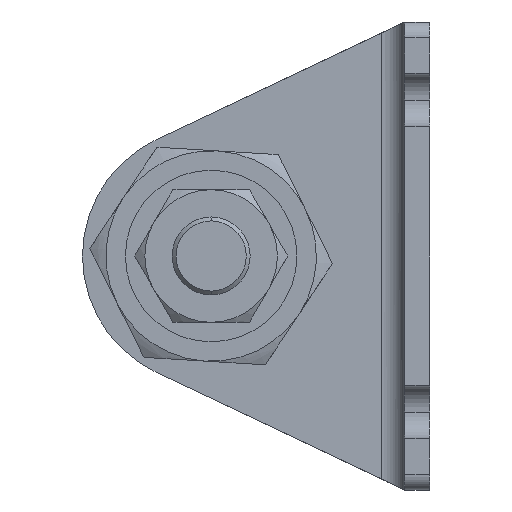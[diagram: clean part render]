
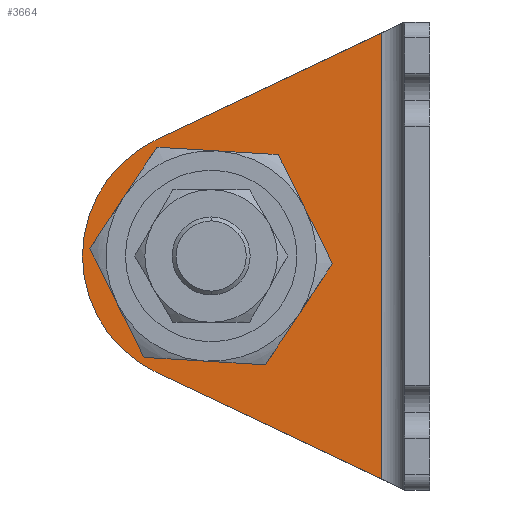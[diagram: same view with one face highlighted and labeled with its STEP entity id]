
A CAD part, left-side view. The second image highlights one B-rep face of the part: STEP entity #3664.
In plain terms, the highlighted planar face has unit normal (-1, 0, 0) as drawn and (1, 0, 0) by its records, which use the part's own axes.
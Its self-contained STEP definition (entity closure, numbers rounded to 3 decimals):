
#73 = VERTEX_POINT ( 'NONE', #3933 ) ;
#126 = CARTESIAN_POINT ( 'NONE',  ( 3.2, 26.408, -10.99 ) ) ;
#132 = EDGE_CURVE ( 'NONE', #2469, #1636, #3544, .T. ) ;
#167 = ORIENTED_EDGE ( 'NONE', *, *, #1230, .T. ) ;
#173 = CIRCLE ( 'NONE', #1496, 16.5 ) ;
#182 = VECTOR ( 'NONE', #1394, 1000. ) ;
#214 = VERTEX_POINT ( 'NONE', #3718 ) ;
#410 = DIRECTION ( 'NONE',  ( 0., 1., 0. ) ) ;
#538 = EDGE_LOOP ( 'NONE', ( #3268, #3435, #1150, #1519, #167 ) ) ;
#572 = EDGE_CURVE ( 'NONE', #73, #3520, #1639, .T. ) ;
#623 = DIRECTION ( 'NONE',  ( 0., 1., 0. ) ) ;
#677 = AXIS2_PLACEMENT_3D ( 'NONE', #1664, #2295, #410 ) ;
#680 = DIRECTION ( 'NONE',  ( 1., 0., 0. ) ) ;
#701 = EDGE_CURVE ( 'NONE', #2469, #1280, #1396, .T. ) ;
#726 = EDGE_CURVE ( 'NONE', #2188, #214, #1155, .T. ) ;
#800 = CARTESIAN_POINT ( 'NONE',  ( 3.2, 3.2, -60. ) ) ;
#868 = CARTESIAN_POINT ( 'NONE',  ( 3.2, 44.5, -30. ) ) ;
#947 = AXIS2_PLACEMENT_3D ( 'NONE', #965, #680, #3169 ) ;
#963 = DIRECTION ( 'NONE',  ( 1., 0., 0. ) ) ;
#964 = EDGE_LOOP ( 'NONE', ( #2824, #3378 ) ) ;
#965 = CARTESIAN_POINT ( 'NONE',  ( 3.2, 28., -30. ) ) ;
#977 = DIRECTION ( 'NONE',  ( 0., 1., 0. ) ) ;
#1066 = DIRECTION ( 'NONE',  ( 0., 1., 0. ) ) ;
#1150 = ORIENTED_EDGE ( 'NONE', *, *, #1513, .T. ) ;
#1155 = CIRCLE ( 'NONE', #677, 11.5 ) ;
#1221 = CARTESIAN_POINT ( 'NONE',  ( 3.2, 6.2, -1.421 ) ) ;
#1230 = EDGE_CURVE ( 'NONE', #3520, #1280, #173, .T. ) ;
#1280 = VERTEX_POINT ( 'NONE', #3505 ) ;
#1333 = FACE_OUTER_BOUND ( 'NONE', #538, .T. ) ;
#1362 = DIRECTION ( 'NONE',  ( 0., 0.904, -0.428 ) ) ;
#1367 = DIRECTION ( 'NONE',  ( 1., 0., 0. ) ) ;
#1394 = DIRECTION ( 'NONE',  ( 0., 0., -1. ) ) ;
#1396 = LINE ( 'NONE', #126, #4041 ) ;
#1496 = AXIS2_PLACEMENT_3D ( 'NONE', #3522, #963, #977 ) ;
#1513 = EDGE_CURVE ( 'NONE', #1636, #73, #2235, .T. ) ;
#1519 = ORIENTED_EDGE ( 'NONE', *, *, #572, .T. ) ;
#1585 = CARTESIAN_POINT ( 'NONE',  ( 3.2, 3.2, -60. ) ) ;
#1636 = VERTEX_POINT ( 'NONE', #3339 ) ;
#1639 = CIRCLE ( 'NONE', #947, 16.5 ) ;
#1664 = CARTESIAN_POINT ( 'NONE',  ( 3.2, 28., -30. ) ) ;
#1689 = CARTESIAN_POINT ( 'NONE',  ( 3.2, 28., -30. ) ) ;
#1732 = CIRCLE ( 'NONE', #3049, 11.5 ) ;
#1734 = DIRECTION ( 'NONE',  ( 0., 0.904, 0.428 ) ) ;
#1961 = EDGE_CURVE ( 'NONE', #214, #2188, #1732, .T. ) ;
#2002 = CARTESIAN_POINT ( 'NONE',  ( 3.2, 6.2, -60. ) ) ;
#2188 = VERTEX_POINT ( 'NONE', #2801 ) ;
#2235 = LINE ( 'NONE', #800, #2929 ) ;
#2295 = DIRECTION ( 'NONE',  ( 1., 0., 0. ) ) ;
#2469 = VERTEX_POINT ( 'NONE', #1221 ) ;
#2556 = PLANE ( 'NONE',  #4047 ) ;
#2801 = CARTESIAN_POINT ( 'NONE',  ( 3.2, 39.5, -30. ) ) ;
#2824 = ORIENTED_EDGE ( 'NONE', *, *, #726, .F. ) ;
#2929 = VECTOR ( 'NONE', #1734, 1000. ) ;
#3049 = AXIS2_PLACEMENT_3D ( 'NONE', #1689, #1367, #1066 ) ;
#3169 = DIRECTION ( 'NONE',  ( 0., 1., 0. ) ) ;
#3268 = ORIENTED_EDGE ( 'NONE', *, *, #701, .F. ) ;
#3339 = CARTESIAN_POINT ( 'NONE',  ( 3.2, 6.2, -58.579 ) ) ;
#3378 = ORIENTED_EDGE ( 'NONE', *, *, #1961, .F. ) ;
#3435 = ORIENTED_EDGE ( 'NONE', *, *, #132, .T. ) ;
#3505 = CARTESIAN_POINT ( 'NONE',  ( 3.2, 35.062, -15.087 ) ) ;
#3520 = VERTEX_POINT ( 'NONE', #868 ) ;
#3522 = CARTESIAN_POINT ( 'NONE',  ( 3.2, 28., -30. ) ) ;
#3544 = LINE ( 'NONE', #2002, #182 ) ;
#3664 = ADVANCED_FACE ( 'NONE', ( #1333, #3775 ), #2556, .T. ) ;
#3718 = CARTESIAN_POINT ( 'NONE',  ( 3.2, 16.5, -30. ) ) ;
#3775 = FACE_BOUND ( 'NONE', #964, .T. ) ;
#3814 = DIRECTION ( 'NONE',  ( 1., 0., 0. ) ) ;
#3933 = CARTESIAN_POINT ( 'NONE',  ( 3.2, 35.062, -44.913 ) ) ;
#4041 = VECTOR ( 'NONE', #1362, 1000. ) ;
#4047 = AXIS2_PLACEMENT_3D ( 'NONE', #1585, #3814, #623 ) ;
